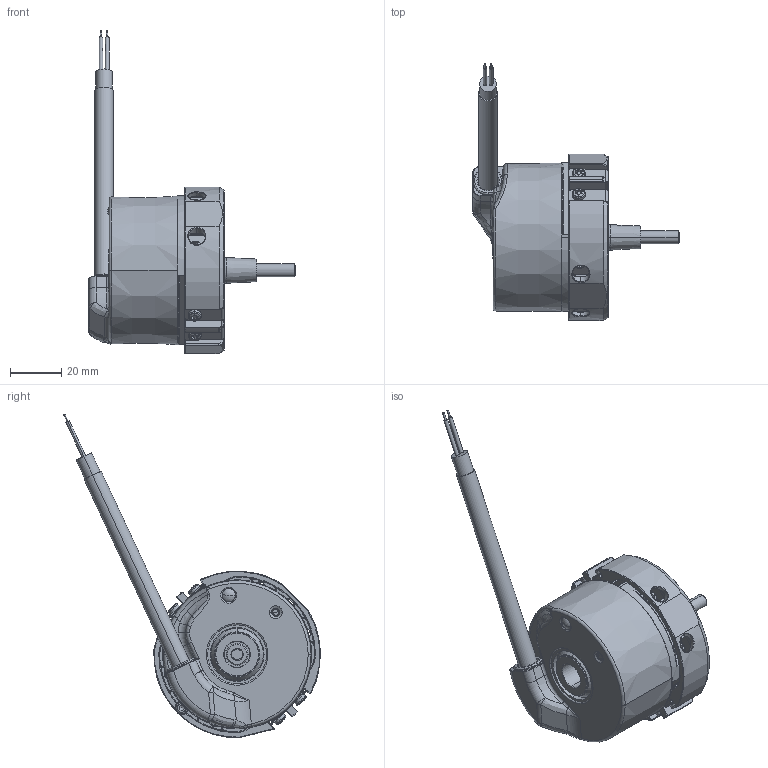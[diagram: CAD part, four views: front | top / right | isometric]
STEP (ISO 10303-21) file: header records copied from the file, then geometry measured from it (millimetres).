
FILE_DESCRIPTION (( 'STEP AP214' ), '1' );
FILE_NAME ('8.5873.HKXX.XXXX.STEP', '2015-12-21T12:35:49', ( 'LauferA' ), ( 'Microsoft' ), 'SwSTEP 2.0', 'SolidWorks 2013', '' );
FILE_SCHEMA (( 'AUTOMOTIVE_DESIGN' ));
Length unit declared in the file: millimetre
Products named in the file (1): 8.5873.HKXX.XXXX
Bounding box: 80.5 x 99.99 x 125.91 mm (x, y, z)
Volume: 69697.9 mm3; surface area: 56751.7 mm2
Topology: 22 solids, 22 shells, 2675 faces, 6412 edges, 3755 vertices
Faces by surface type: cylinder 913, plane 614, bspline 468, torus 383, cone 221, sphere 76
Entity records: 121613 total; most frequent: CARTESIAN_POINT 33181, ORIENTED_EDGE 12564, DIRECTION 12262, EDGE_CURVE 6282, AXIS2_PLACEMENT_3D 5043, VERTEX_POINT 3753, EDGE_LOOP 2855, CIRCLE 2835
